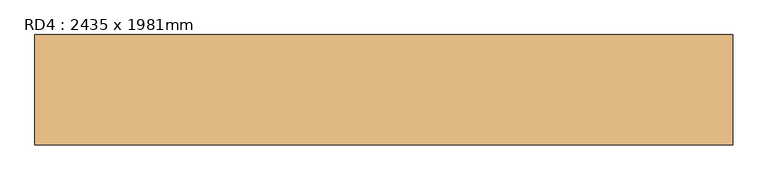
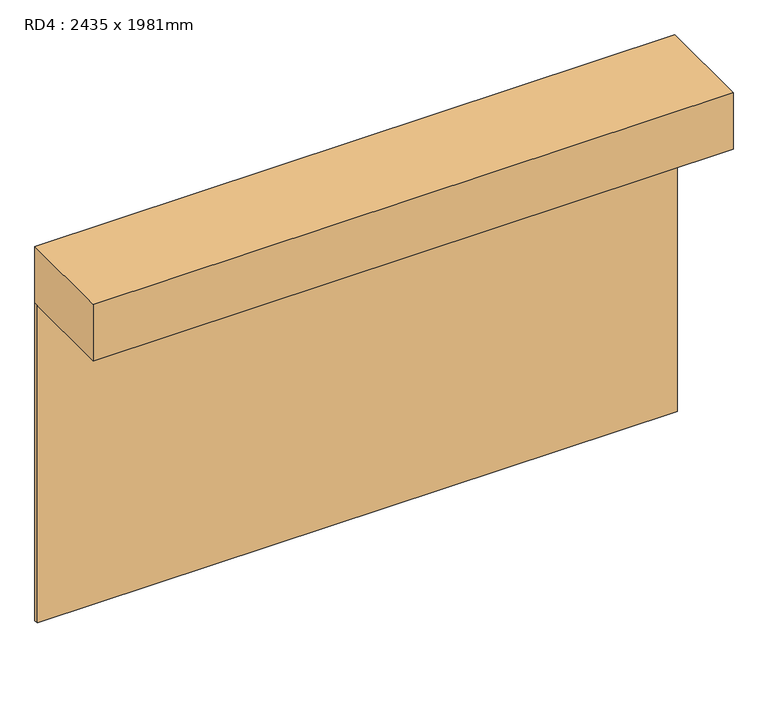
"""IFC4 building model written with IfcOpenShell, lengths in millimetres: door geometry, RD4 : 2435 x 1981mm."""

from ifc_helpers import new_model, si_unit, frame, origin, origin_with_axes, place, context, project, spatial, polyline, outline, extrude, source, transform, mapped, element, save


def rd4_2435_x_1981mm_6cb75701(model_context):
    return source(origin(), model_context, "Body", "SweptSolid", [
        extrude(outline(polyline([(2785.7, -75.0), (2785.7, -100.0), (-1214.3, -100.0), (-1214.3, -75.0), (2785.7, -75.0)])), origin_with_axes(), (0.0, 0.0, 1.0), 2100.0),
        extrude(outline(polyline([(2785.7, -706.2), (-1214.3, -706.2), (-1214.3, -75.0), (2785.7, -75.0), (2785.7, -706.2)])), frame((0.0, 0.0, 2100.0), z_axis=(0.0, 0.0, 1.0), x_axis=(1.0, 0.0, 0.0)), (0.0, 0.0, 1.0), 374.1598292),
    ])


if __name__ == "__main__":
    model = new_model("IFC4")
    model_context = context("Model", 3, world=origin())
    ifc_project = project(units=[si_unit("LENGTHUNIT", "METRE", prefix="MILLI")], contexts=[model_context])
    site = spatial("IfcSite", under=ifc_project)
    building = spatial("IfcBuilding", under=site)
    placement = place(None, origin())
    rd4_2435_x_1981mm_shape = rd4_2435_x_1981mm_6cb75701(model_context)
    element("IfcDoor", 1, ObjectType="RD4 : 2435 x 1981mm", at=placement, inside=building, context=model_context, shape_type="MappedRepresentation", body=[
        mapped(rd4_2435_x_1981mm_shape, transform((0.0, 0.0, 0.0), x_axis=(1.0, 0.0, 0.0), y_axis=(0.0, 1.0, 0.0), z_axis=(0.0, 0.0, 1.0))),
    ])
    save(model, "model.ifc")
